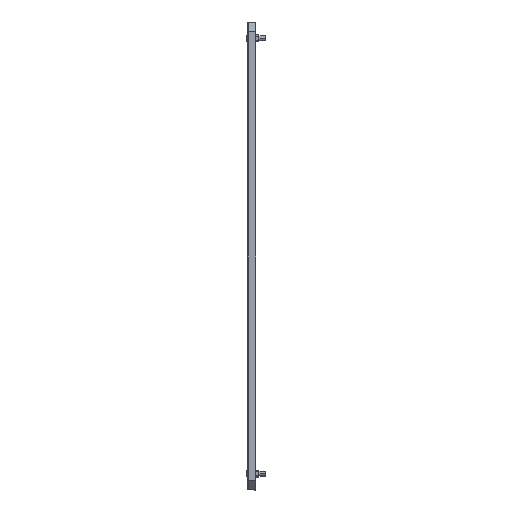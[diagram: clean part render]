
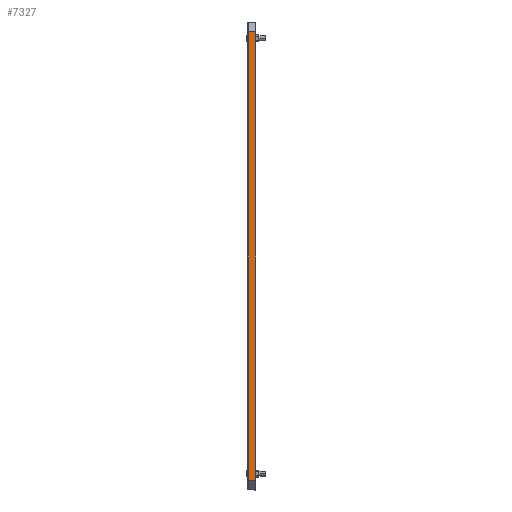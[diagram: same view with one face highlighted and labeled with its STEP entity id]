
A CAD part, left-side view. The second image highlights one B-rep face of the part: STEP entity #7327.
In plain terms, the highlighted planar face has unit normal (-1, 0, 0).
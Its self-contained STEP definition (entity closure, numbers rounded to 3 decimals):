
#2762 = EDGE_LOOP ( 'NONE', ( #4305, #4306, #4304, #4308 ) ) ;
#4304 = ORIENTED_EDGE ( 'NONE', *, *, #7113, .F. ) ;
#4305 = ORIENTED_EDGE ( 'NONE', *, *, #7109, .F. ) ;
#4306 = ORIENTED_EDGE ( 'NONE', *, *, #7117, .T. ) ;
#4308 = ORIENTED_EDGE ( 'NONE', *, *, #7116, .F. ) ;
#7109 = EDGE_CURVE ( 'NONE', #9153, #9155, #23662, .T. ) ;
#7113 = EDGE_CURVE ( 'NONE', #9160, #9158, #23683, .T. ) ;
#7116 = EDGE_CURVE ( 'NONE', #9155, #9160, #23699, .T. ) ;
#7117 = EDGE_CURVE ( 'NONE', #9153, #9158, #23704, .T. ) ;
#7327 = ADVANCED_FACE ( 'NONE', ( #22445 ), #26313, .F. ) ;
#9153 = VERTEX_POINT ( 'NONE', #29319 ) ;
#9155 = VERTEX_POINT ( 'NONE', #29321 ) ;
#9158 = VERTEX_POINT ( 'NONE', #29324 ) ;
#9160 = VERTEX_POINT ( 'NONE', #29326 ) ;
#22139 = VECTOR ( 'NONE', #23665, 1000. ) ;
#22143 = VECTOR ( 'NONE', #23687, 1000. ) ;
#22146 = VECTOR ( 'NONE', #23703, 1000. ) ;
#22148 = VECTOR ( 'NONE', #23708, 1000. ) ;
#22445 = FACE_OUTER_BOUND ( 'NONE', #2762, .T. ) ;
#22448 = AXIS2_PLACEMENT_3D ( 'NONE', #26314, #26315, #26316 ) ;
#23662 = LINE ( 'NONE', #23664, #22139 ) ;
#23664 = CARTESIAN_POINT ( 'NONE',  ( -300., -2.4, 480. ) ) ;
#23665 = DIRECTION ( 'NONE',  ( 0., 0., 1. ) ) ;
#23683 = LINE ( 'NONE', #23685, #22143 ) ;
#23685 = CARTESIAN_POINT ( 'NONE',  ( -300., -18., 480. ) ) ;
#23687 = DIRECTION ( 'NONE',  ( 0., 0., -1. ) ) ;
#23699 = LINE ( 'NONE', #23701, #22146 ) ;
#23701 = CARTESIAN_POINT ( 'NONE',  ( -300., -1.2, 479.395 ) ) ;
#23703 = DIRECTION ( 'NONE',  ( 0., -1., 0. ) ) ;
#23704 = LINE ( 'NONE', #23706, #22148 ) ;
#23706 = CARTESIAN_POINT ( 'NONE',  ( -300., -18., -479.395 ) ) ;
#23708 = DIRECTION ( 'NONE',  ( 0., -1., 0. ) ) ;
#26313 = PLANE ( 'NONE',  #22448 ) ;
#26314 = CARTESIAN_POINT ( 'NONE',  ( -300., -18., 480. ) ) ;
#26315 = DIRECTION ( 'NONE',  ( 1., 0., 0. ) ) ;
#26316 = DIRECTION ( 'NONE',  ( 0., 1., 0. ) ) ;
#29319 = CARTESIAN_POINT ( 'NONE',  ( -300., -2.4, -479.395 ) ) ;
#29321 = CARTESIAN_POINT ( 'NONE',  ( -300., -2.4, 479.395 ) ) ;
#29324 = CARTESIAN_POINT ( 'NONE',  ( -300., -18., -479.395 ) ) ;
#29326 = CARTESIAN_POINT ( 'NONE',  ( -300., -18., 479.395 ) ) ;
